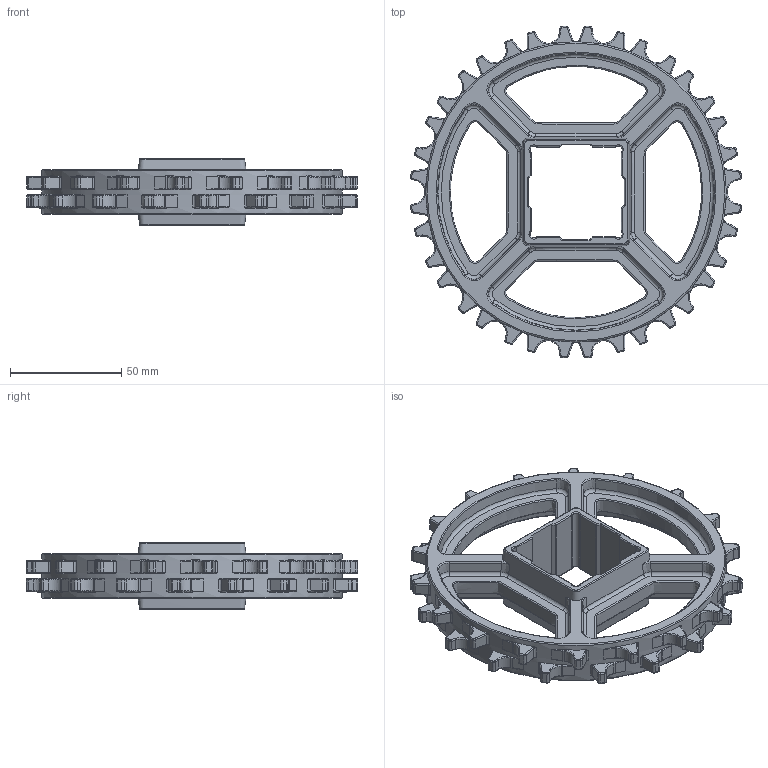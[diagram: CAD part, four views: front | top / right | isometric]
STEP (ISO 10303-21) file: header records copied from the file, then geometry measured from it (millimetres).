
FILE_DESCRIPTION(/* description */ (''),/* implementation_level */ '2;1');
FILE_NAME(/* name */ 'HS-2500A-18T.stp',/* time_stamp */ '2023-11-21T14:10:00+08:00',/* author */ (''),/* organization */ (''),/* preprocessor_version */ 'ST-DEVELOPER v15',/* originating_system */ 'SIEMENS PLM Software NX 8.5',/* authorisation */ '');
FILE_SCHEMA (('AP203_CONFIGURATION_CONTROLLED_3D_DESIGN_OF_MECHANICAL_PARTS_AND_ASSEMBLIES_MIM_LF { 1 0 10303 403 2 1 2}'));
Products named in the file (1): Admi2E80BA60ec42
Bounding box: 148.41 x 148.73 x 30 mm (x, y, z)
Volume: 113449.4 mm3; surface area: 46424.5 mm2
Topology: 1 solids, 1 shells, 1338 faces, 3178 edges, 1846 vertices
Faces by surface type: cylinder 516, bspline 428, plane 264, torus 70, sphere 32, cone 24, extrusion 4
Full cylindrical faces by diameter (mm): 134.7 x1
Entity records: 47439 total; most frequent: CARTESIAN_POINT 17940, DIRECTION 6351, ORIENTED_EDGE 6218, EDGE_CURVE 3109, AXIS2_PLACEMENT_3D 2643, VERTEX_POINT 1830, EDGE_LOOP 1405, ADVANCED_FACE 1338
